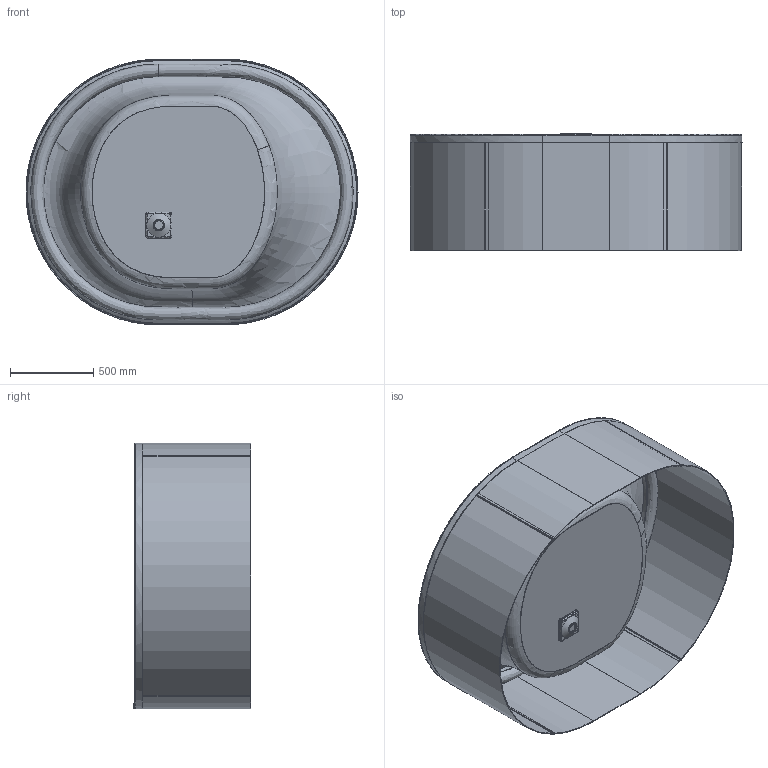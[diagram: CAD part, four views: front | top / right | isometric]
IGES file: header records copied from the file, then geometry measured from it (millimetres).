
Start section: SolidWorks IGES file using analytic representation for surfaces
Global section: file name: D:\Users\M.Szymanski\Desktop\Wanny\ergo-stripe\03. do przegrania\WO_ERGO_kpl_2000x1600.IGS; native system: SolidWorks 2011; preprocessor: SolidWorks 2011; author: M.Szymanski; date: 181218.074508; units: millimetre
Bounding box: 2000 x 708.2 x 1600 mm (x, y, z)
Surface area: 17336211.1 mm2 (no closed solid volume)
Topology: 0 solids, 0 shells, 278 faces, 2072 edges, 2650 vertices
Faces by surface type: bspline 174, revolution 104
